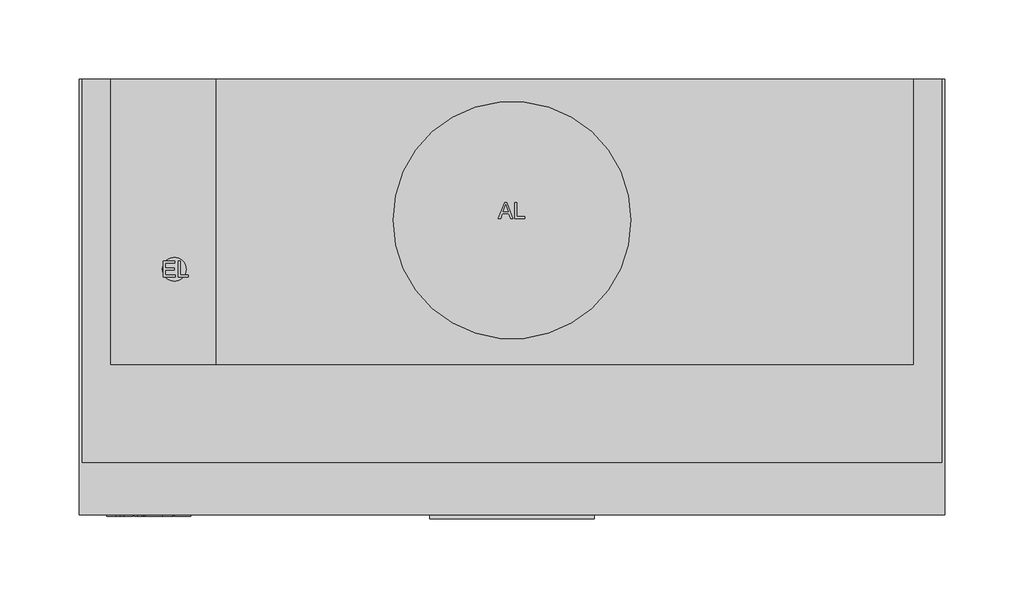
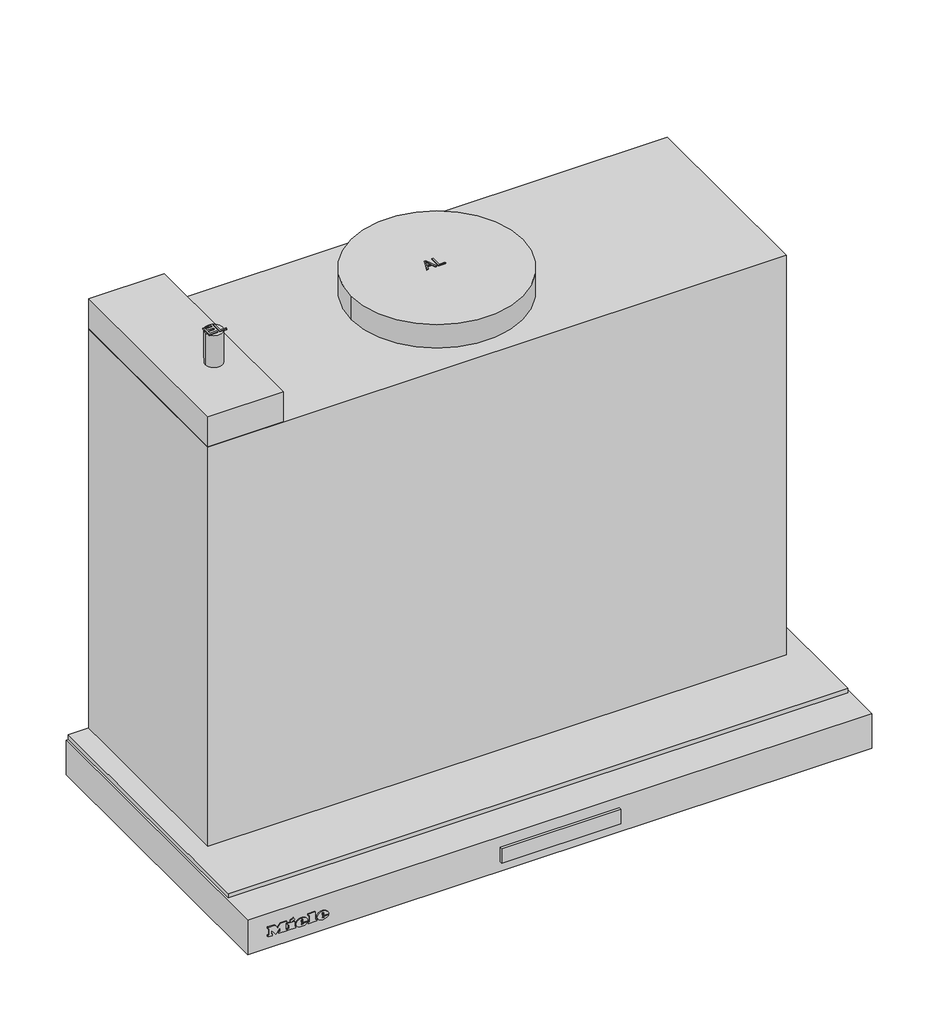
# Not in any storey: 1 proxy.
"""IFC4 building model written with IfcOpenShell, lengths in millimetres."""

from ifc_helpers import new_model, si_unit, origin, place, context, project, spatial, transform, mapped, element, save
from components import specialty_equipment_bfe63ad1

model = new_model("IFC4")

# Units and contexts
model_context = context("Model", 3, world=origin())
ifc_project = project(units=[si_unit("LENGTHUNIT", "METRE", prefix="MILLI")], contexts=[model_context])

# Site, building
site = spatial("IfcSite", under=ifc_project)
building = spatial("IfcBuilding", under=site)

# Proxy
placement = place(None, origin())
specialty_equipment_shape = specialty_equipment_bfe63ad1(model_context)
element("IfcBuildingElementProxy", 1, Name="11862880_CH_DAS2520_EDST : 28S2520S_CH_11862880_DAS2520_EDST", ObjectType="11862880_CH_DAS2520_EDST : 28S2520S_CH_11862880_DAS2520_EDST", at=placement, inside=building, context=model_context, shape_type="MappedRepresentation", body=[
    mapped(specialty_equipment_shape, transform((0.0, 0.0, 0.0), x_axis=(1.0, 0.0, 0.0), y_axis=(0.0, 1.0, 0.0), z_axis=(0.0, 0.0, 1.0))),
])

save(model, "model.ifc")
